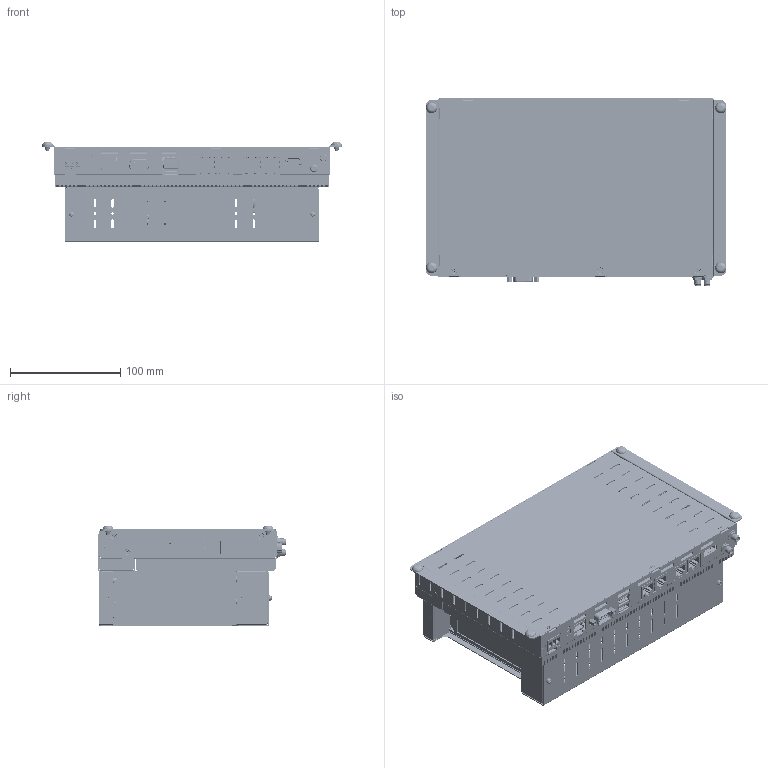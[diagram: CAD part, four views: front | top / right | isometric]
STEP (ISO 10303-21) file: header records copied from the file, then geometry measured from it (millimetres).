
FILE_DESCRIPTION((''),'2;1');
FILE_NAME('EC2A-100-Z','2026-06-02T13:54:00',('gijyu181'),(''),'CREO PARAMETRIC BY PTC INC, 2018050','CREO PARAMETRIC BY PTC INC, 2018050','');
FILE_SCHEMA(('CONFIG_CONTROL_DESIGN','SHAPE_APPEARANCE_LAYERS_GROUPS'));
Products named in the file (1): EC2A-100-Z
Bounding box: 272 x 170.54 x 90.45 mm (x, y, z)
Volume: 699501.1 mm3; surface area: 711526 mm2
Topology: 32 solids, 101 shells, 31474 faces, 92061 edges, 60835 vertices
Faces by surface type: plane 21697, cylinder 7649, extrusion 1160, torus 361, cone 325, bspline 179, sphere 91, revolution 12
Entity records: 1225715 total; most frequent: CARTESIAN_POINT 213125, ORIENTED_EDGE 183009, DIRECTION 165975, EDGE_CURVE 91987, VECTOR 72717, LINE 71557, VERTEX_POINT 60836, AXIS2_PLACEMENT_3D 46623
